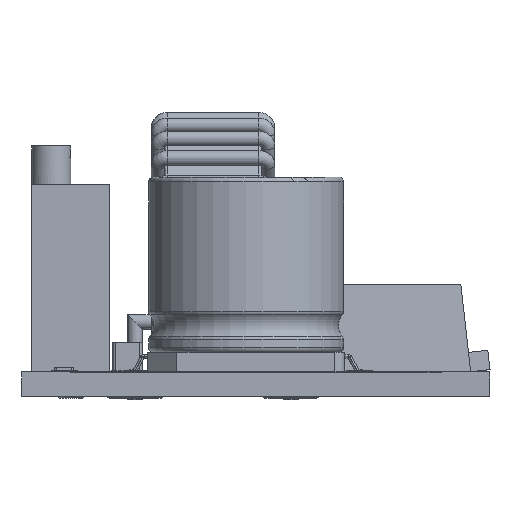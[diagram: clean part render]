
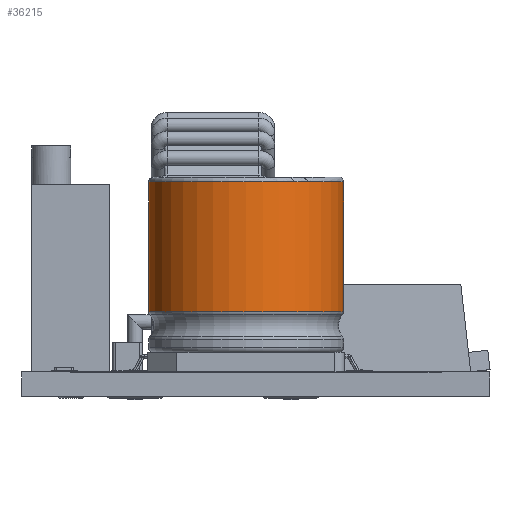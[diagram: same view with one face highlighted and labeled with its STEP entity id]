
A CAD part, left-side view. The second image highlights one B-rep face of the part: STEP entity #36215.
In plain terms, the highlighted cylindrical face has radius 5 mm (diameter 10 mm), a full revolution.
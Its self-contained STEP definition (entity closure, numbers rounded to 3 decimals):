
#471=CYLINDRICAL_SURFACE('',#38808,5.);
#1282=LINE('',#66747,#4188);
#4188=VECTOR('',#43284,5.);
#8524=FACE_OUTER_BOUND('',#10410,.T.);
#10410=EDGE_LOOP('',(#26168,#26169,#26170,#26171,#26172,#26173));
#13606=CIRCLE('',#38805,5.);
#13607=CIRCLE('',#38806,5.);
#13609=CIRCLE('',#38809,5.);
#13610=CIRCLE('',#38810,5.);
#15189=VERTEX_POINT('',#66737);
#15190=VERTEX_POINT('',#66738);
#15191=VERTEX_POINT('',#66743);
#15192=VERTEX_POINT('',#66744);
#19364=EDGE_CURVE('',#15189,#15190,#13606,.T.);
#19365=EDGE_CURVE('',#15190,#15189,#13607,.T.);
#19367=EDGE_CURVE('',#15191,#15192,#13609,.T.);
#19368=EDGE_CURVE('',#15192,#15191,#13610,.T.);
#19369=EDGE_CURVE('',#15192,#15190,#1282,.T.);
#26168=ORIENTED_EDGE('',*,*,#19367,.F.);
#26169=ORIENTED_EDGE('',*,*,#19368,.F.);
#26170=ORIENTED_EDGE('',*,*,#19369,.T.);
#26171=ORIENTED_EDGE('',*,*,#19365,.T.);
#26172=ORIENTED_EDGE('',*,*,#19364,.T.);
#26173=ORIENTED_EDGE('',*,*,#19369,.F.);
#36215=ADVANCED_FACE('',(#8524),#471,.T.);
#38805=AXIS2_PLACEMENT_3D('',#66739,#43272,#43273);
#38806=AXIS2_PLACEMENT_3D('',#66740,#43274,#43275);
#38808=AXIS2_PLACEMENT_3D('',#66742,#43278,#43279);
#38809=AXIS2_PLACEMENT_3D('',#66745,#43280,#43281);
#38810=AXIS2_PLACEMENT_3D('',#66746,#43282,#43283);
#43272=DIRECTION('center_axis',(0.,0.,
1.));
#43273=DIRECTION('ref_axis',(1.,0.,0.));
#43274=DIRECTION('center_axis',(0.,0.,
1.));
#43275=DIRECTION('ref_axis',(1.,0.,0.));
#43278=DIRECTION('center_axis',(0.,0.,
1.));
#43279=DIRECTION('ref_axis',(1.,0.,0.));
#43280=DIRECTION('center_axis',(0.,0.,
1.));
#43281=DIRECTION('ref_axis',(1.,0.,0.));
#43282=DIRECTION('center_axis',(0.,0.,
1.));
#43283=DIRECTION('ref_axis',(1.,0.,0.));
#43284=DIRECTION('',(0.,0.,-1.));
#66737=CARTESIAN_POINT('',(-16.908,-0.261,58.297));
#66738=CARTESIAN_POINT('',(-26.908,-0.261,58.297));
#66739=CARTESIAN_POINT('Origin',(-21.908,-0.261,58.297));
#66740=CARTESIAN_POINT('Origin',(-21.908,-0.261,58.297));
#66742=CARTESIAN_POINT('Origin',(-21.908,-0.261,65.201));
#66743=CARTESIAN_POINT('',(-16.908,-0.261,64.951));
#66744=CARTESIAN_POINT('',(-26.908,-0.261,64.951));
#66745=CARTESIAN_POINT('Origin',(-21.908,-0.261,64.951));
#66746=CARTESIAN_POINT('Origin',(-21.908,-0.261,64.951));
#66747=CARTESIAN_POINT('',(-26.908,-0.261,65.201));
